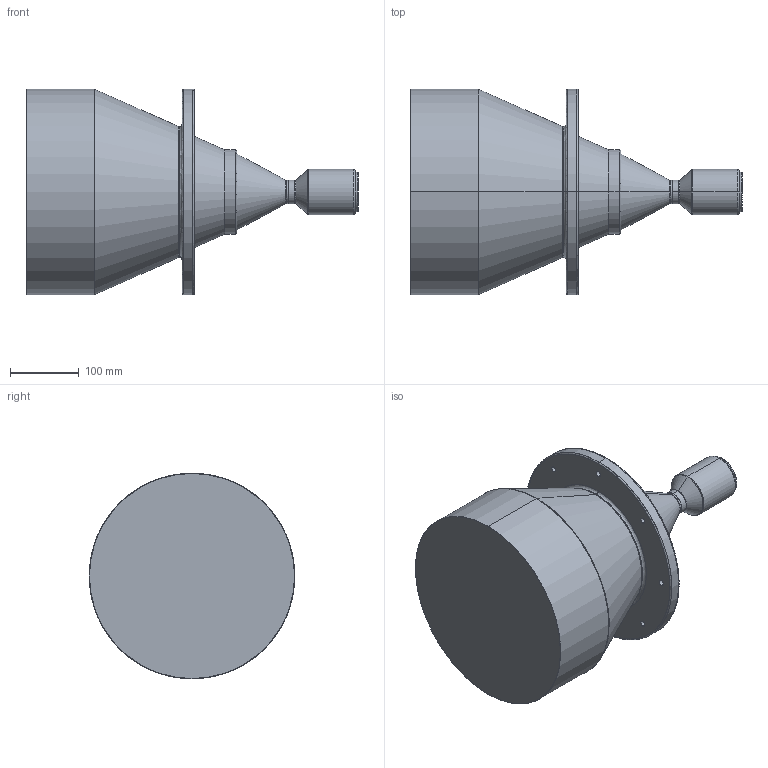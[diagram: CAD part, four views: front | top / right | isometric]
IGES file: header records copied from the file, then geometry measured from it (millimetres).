
Start section: SolidWorks IGES file using analytic representation for surfaces
Global section: file name: C:\Users\Administrator\Desktop\DTCM430H-258-M58-AL.IGS; native system: SolidWorks 2017; preprocessor: SolidWorks 2017; author: Administrator; date: 210315.142003; units: millimetre
Bounding box: 484.5 x 300 x 300 mm (x, y, z)
Surface area: 453379.7 mm2 (no closed solid volume)
Topology: 0 solids, 0 shells, 77 faces, 1808 edges, 1808 vertices
Faces by surface type: revolution 52, bspline 25
